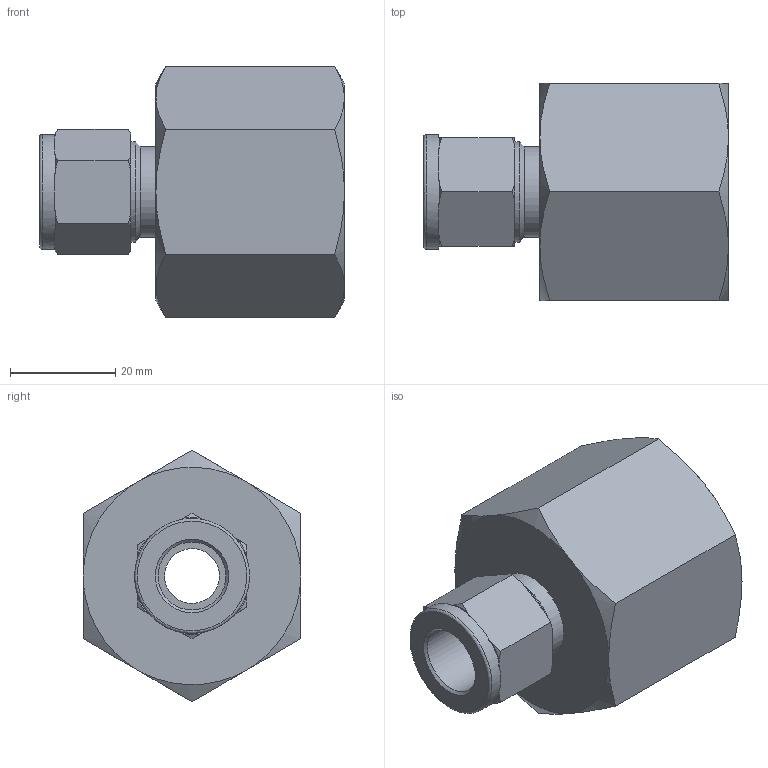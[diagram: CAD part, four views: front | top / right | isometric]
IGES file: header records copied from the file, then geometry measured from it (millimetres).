
Global section: file name: SFC-8-16N; native system: Autodesk Inventor 2016; preprocessor: unknown; author: 배성훈,,11,0; organization: 20151010.071711; date: 20151019.102746; units: millimetre
Bounding box: 57.9 x 41.3 x 47.69 mm (x, y, z)
Volume: 37535.4 mm3; surface area: 12884.4 mm2
Topology: 1 solids, 1 shells, 65 faces, 175 edges, 116 vertices
Faces by surface type: bspline 65
